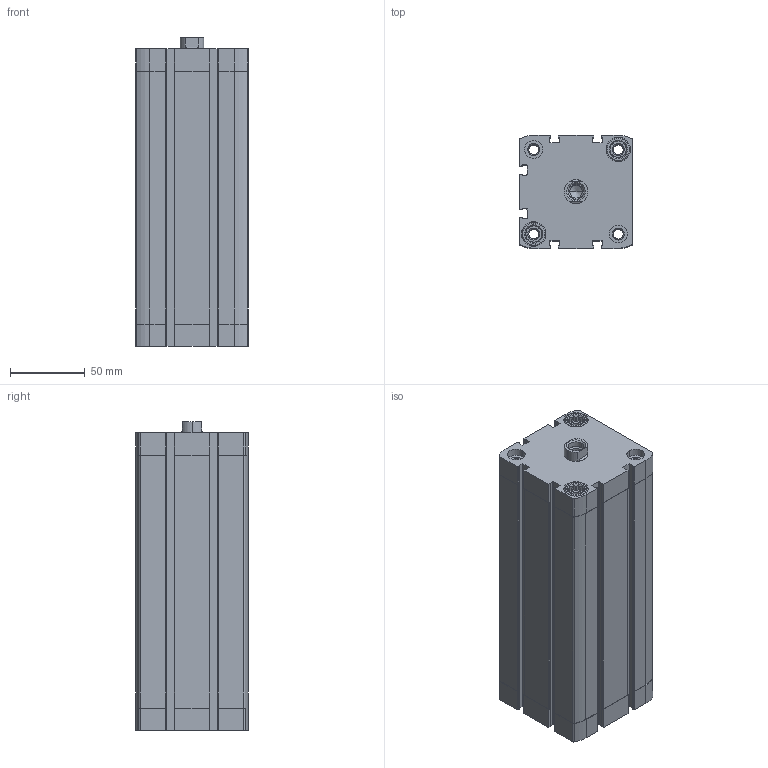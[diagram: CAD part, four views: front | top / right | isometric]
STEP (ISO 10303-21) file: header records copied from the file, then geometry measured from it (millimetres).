
FILE_DESCRIPTION (( 'STEP AP203' ), '1' );
FILE_NAME ('CCN63-150F.STEP', '2017-04-05T16:25:40', ( '' ), ( '' ), 'SwSTEP 2.0', 'SolidWorks 2016', '' );
FILE_SCHEMA (( 'CONFIG_CONTROL_DESIGN' ));
Length unit declared in the file: millimetre
Products named in the file (3): CCN-150----(Z); CCN-150_(KS); CCN63-150F
Assembly tree (2 placements, depth 2):
  CCN63-150F
    CCN-150----(Z)
    CCN-150_(KS)
Bounding box: 75.5 x 75.5 x 206.5 mm (x, y, z)
Volume: 605374 mm3; surface area: 162760.6 mm2
Topology: 2 solids, 2 shells, 471 faces, 1276 edges, 839 vertices
Faces by surface type: plane 219, cylinder 210, cone 42
Entity records: 15329 total; most frequent: CARTESIAN_POINT 2883, DIRECTION 2600, ORIENTED_EDGE 2548, EDGE_CURVE 1274, AXIS2_PLACEMENT_3D 948, VERTEX_POINT 839, VECTOR 704, LINE 704
